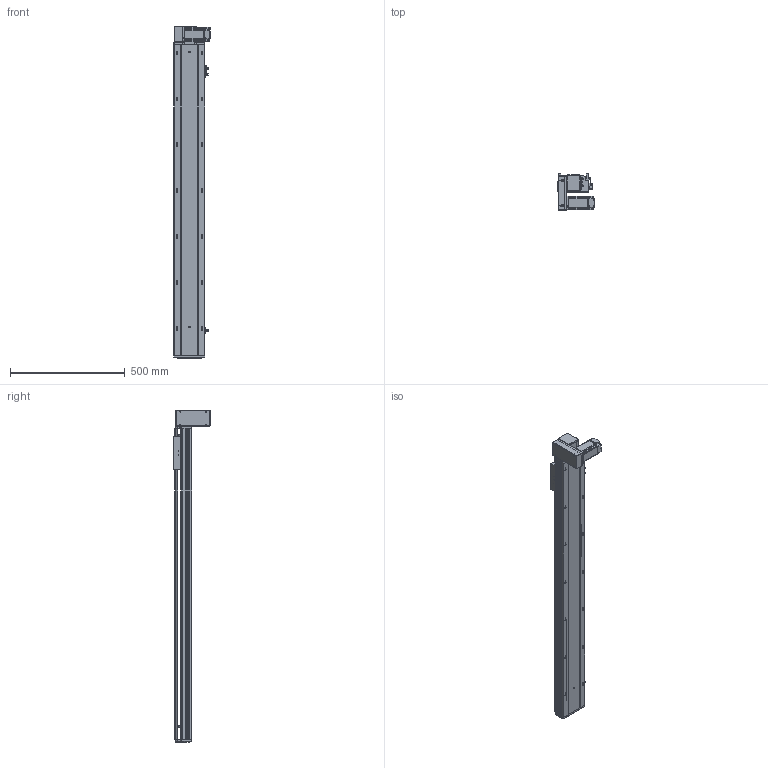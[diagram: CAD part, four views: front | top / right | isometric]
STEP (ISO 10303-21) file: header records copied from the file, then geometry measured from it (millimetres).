
FILE_DESCRIPTION (( 'STEP AP203' ), '1' );
FILE_NAME ('RY140-T-300-DL.SLDASM_1100.step', '2021-03-01T06:06:33', ( '盈信电脑' ), ( '东莞市道滘镇水果街19号' ), 'SwSTEP 2.0', 'SolidWorks 2012', '' );
FILE_SCHEMA (( 'CONFIG_CONTROL_DESIGN' ));
Length unit declared in the file: millimetre
Products named in the file (18): 滅袉蝶18-10; RY140-T翋肮謫裔啣; RY140-T-300-DL.SLDASM_1100; RY140-T萇儂欶; RY120-T主同步轮轴承压盖; 侂狟400W侜督萇儂; 15; RY120-T蹟翐M4; RY120-T肮祭湍揤踡輸2; RY140-T萇儂假蚾啣; RY140-T翋肮祭謫盓傅釱; RY120-T肮祭湍揤踡輸1; RY140綴裔啣; 覜茼ん672; RY120外置感应片(140共用）; RY140肮祭謫臏賑輸; RY140-T-300-DL倰第菁釱_1100; RY140-T-300-DL倰第奻裔啣_1100
Assembly tree (23 placements, depth 3):
  RY140-T-300-DL.SLDASM_1100
    RY140-T-300-DL倰第菁釱_1100
    RY140肮祭謫臏賑輸
    RY140-T-300-DL倰第奻裔啣_1100
    RY140綴裔啣
    覜茼ん672  x3
    RY120外置感应片(140共用）
    RY120-T肮祭湍揤踡輸2
    RY120-T肮祭湍揤踡輸1
    RY140-T翋肮祭謫盓傅釱
    RY140-T萇儂假蚾啣
    侂狟400W侜督萇儂
      15
    RY120-T主同步轮轴承压盖
    RY120-T蹟翐M4  x4
    RY140-T萇儂欶
    滅袉蝶18-10  x2
    RY140-T翋肮謫裔啣
Bounding box: 157 x 158.5 x 1446 mm (x, y, z)
Volume: 4236922.1 mm3; surface area: 1622143.4 mm2
Topology: 22 solids, 22 shells, 2690 faces, 7350 edges, 4710 vertices
Faces by surface type: plane 1385, cylinder 979, cone 226, bspline 100
Entity records: 84868 total; most frequent: CARTESIAN_POINT 20617, ORIENTED_EDGE 13172, DIRECTION 12568, EDGE_CURVE 6586, VERTEX_POINT 4309, VECTOR 4222, LINE 4222, AXIS2_PLACEMENT_3D 4173
